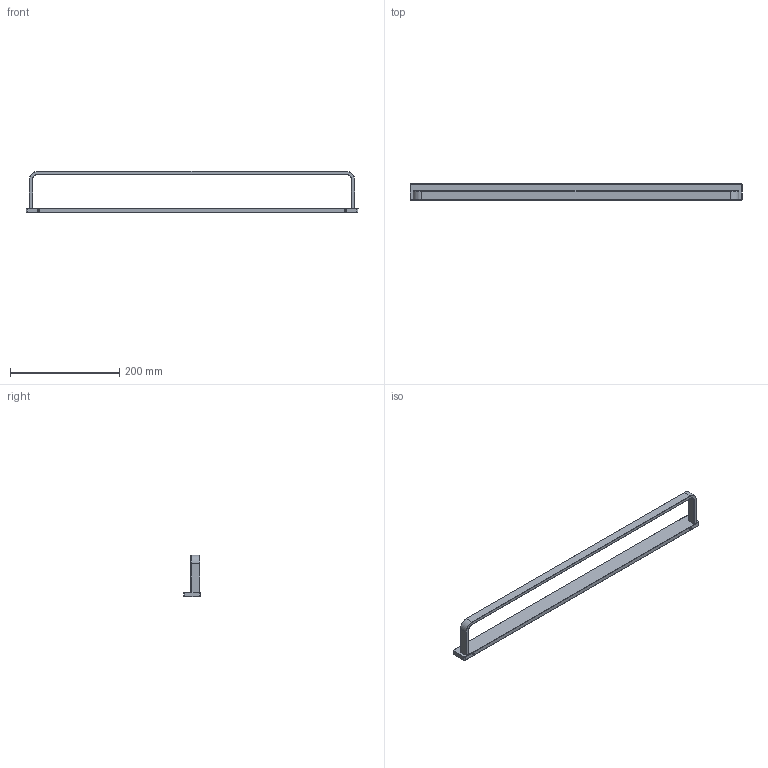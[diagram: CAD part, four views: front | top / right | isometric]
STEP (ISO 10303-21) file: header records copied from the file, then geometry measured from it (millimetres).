
FILE_DESCRIPTION(/* description */ (''),/* implementation_level */ '2;1');
FILE_NAME(/* name */ 'c:\worker\convert-fusion-r05\tmp\job-1\15\output\files\49f6a266-421f-4a61-9e13-bb6bf2eaf749\0f665c52-b856-4105-a0e9-645318889ea6.stp',/* time_stamp */ '2019-07-12T08:53:56+00:00',/* author */ (''),/* organization */ (''),/* preprocessor_version */ 'ST-DEVELOPER v18',/* originating_system */ 'Autodesk Translation Framework v8.2.0.1029',/* authorisation */ '');
FILE_SCHEMA (('AUTOMOTIVE_DESIGN { 1 0 10303 214 3 1 1 }'));
Length unit declared in the file: millimetre
Products named in the file (1): !DA70216
Bounding box: 608 x 30 x 76 mm (x, y, z)
Volume: 213635.6 mm3; surface area: 76967.7 mm2
Topology: 2 solids, 2 shells, 72 faces, 166 edges, 100 vertices
Faces by surface type: cylinder 30, plane 26, torus 16
Full cylindrical faces by diameter (mm): 4 x2
Entity records: 2070 total; most frequent: DIRECTION 396, CARTESIAN_POINT 339, ORIENTED_EDGE 332, EDGE_CURVE 166, AXIS2_PLACEMENT_3D 157, VERTEX_POINT 100, CIRCLE 84, LINE 82
